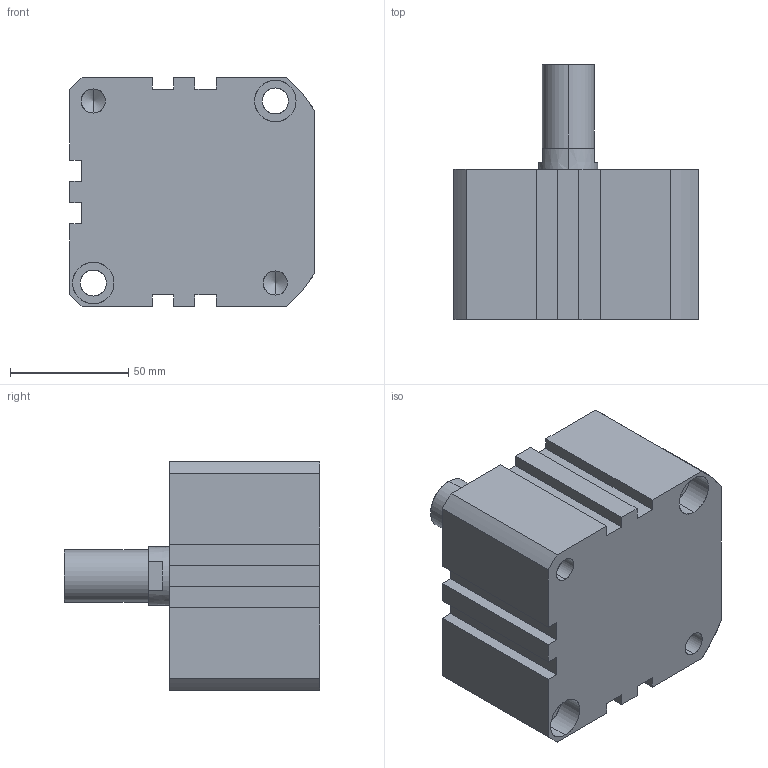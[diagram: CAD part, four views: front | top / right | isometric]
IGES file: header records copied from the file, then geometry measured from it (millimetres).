
Start section: SolidWorks IGES file using analytic representation for surfaces
Global section: file name: C:\Users\Toshiba\Desktop\XG#M2-80-10.IGS; native system: SolidWorks 2014; preprocessor: SolidWorks 2014; author: Toshiba; date: 160524.101946; units: millimetre
Bounding box: 103.5 x 108 x 97 mm (x, y, z)
Surface area: 61556.2 mm2 (no closed solid volume)
Topology: 0 solids, 0 shells, 111 faces, 1893 edges, 1889 vertices
Faces by surface type: revolution 63, bspline 48
